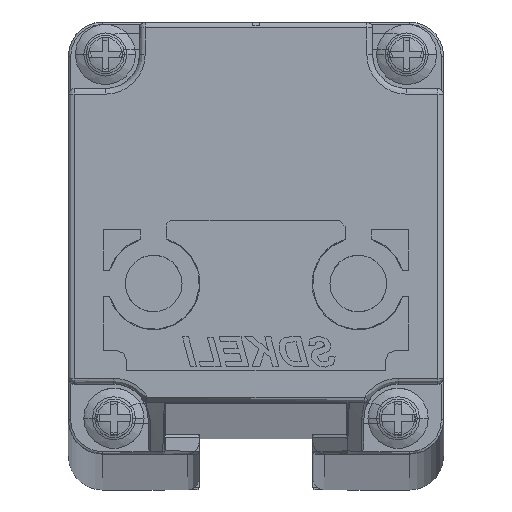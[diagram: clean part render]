
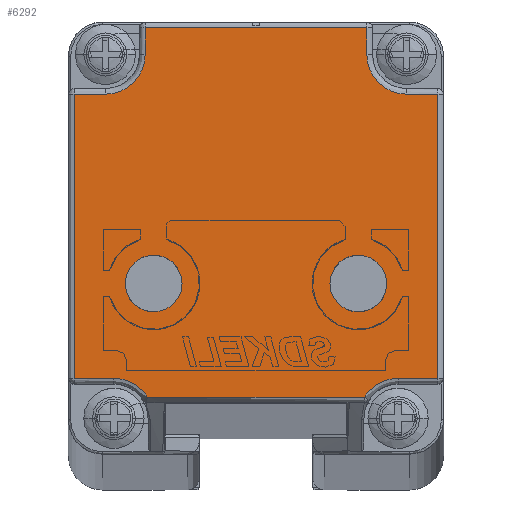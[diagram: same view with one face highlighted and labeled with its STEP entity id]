
A CAD part, top view. The second image highlights one B-rep face of the part: STEP entity #6292.
In plain terms, the highlighted planar face has unit normal (0, 0, 1).
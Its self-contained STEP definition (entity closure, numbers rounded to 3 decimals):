
#2528=CARTESIAN_POINT('',(25.5,15.,130.));
#2529=DIRECTION('',(0.,0.,1.));
#2530=DIRECTION('',(1.,-0.007,0.));
#2531=AXIS2_PLACEMENT_3D('',#2528,#2529,#2530);
#2533=CARTESIAN_POINT('',(25.5,15.,130.));
#2534=DIRECTION('',(0.,0.,1.));
#2535=DIRECTION('',(-1.,0.007,0.));
#2536=AXIS2_PLACEMENT_3D('',#2533,#2534,#2535);
#2538=CARTESIAN_POINT('',(7.5,15.002,130.));
#2539=DIRECTION('',(0.,0.,1.));
#2540=DIRECTION('',(1.,0.007,0.));
#2541=AXIS2_PLACEMENT_3D('',#2538,#2539,#2540);
#2543=CARTESIAN_POINT('',(7.5,15.002,130.));
#2544=DIRECTION('',(0.,0.,1.));
#2545=DIRECTION('',(-1.,-0.007,0.));
#2546=AXIS2_PLACEMENT_3D('',#2543,#2544,#2545);
#2548=CARTESIAN_POINT('',(4.,3.152,130.));
#2549=DIRECTION('',(0.,0.,1.));
#2550=DIRECTION('',(0.849,0.528,0.));
#2551=AXIS2_PLACEMENT_3D('',#2548,#2549,#2550);
#2553=CARTESIAN_POINT('',(3.25,35.15,130.));
#2554=DIRECTION('',(0.,0.,1.));
#2555=DIRECTION('',(0.,-1.,0.));
#2556=AXIS2_PLACEMENT_3D('',#2553,#2554,#2555);
#2558=CARTESIAN_POINT('',(29.75,35.15,130.));
#2559=DIRECTION('',(0.,0.,1.));
#2560=DIRECTION('',(-1.,0.,0.));
#2561=AXIS2_PLACEMENT_3D('',#2558,#2559,#2560);
#2563=CARTESIAN_POINT('',(29.,3.152,130.));
#2564=DIRECTION('',(0.,0.,1.));
#2565=DIRECTION('',(0.,1.,0.));
#2566=AXIS2_PLACEMENT_3D('',#2563,#2564,#2565);
#2633=DIRECTION('',(1.,0.,0.));
#2634=VECTOR('',#2633,19.056);
#2635=CARTESIAN_POINT('',(6.972,5.,130.));
#2636=LINE('',#2635,#2634);
#3036=DIRECTION('',(1.,0.,0.));
#3037=VECTOR('',#3036,3.5);
#3038=CARTESIAN_POINT('',(29.,6.652,130.));
#3039=LINE('',#3038,#3037);
#3100=DIRECTION('',(0.,1.,0.));
#3101=VECTOR('',#3100,24.998);
#3102=CARTESIAN_POINT('',(32.5,6.652,130.));
#3103=LINE('',#3102,#3101);
#3139=DIRECTION('',(-1.,0.,0.));
#3140=VECTOR('',#3139,2.75);
#3141=CARTESIAN_POINT('',(32.5,31.65,130.));
#3142=LINE('',#3141,#3140);
#3166=DIRECTION('',(0.,1.,0.));
#3167=VECTOR('',#3166,2.35);
#3168=CARTESIAN_POINT('',(26.25,35.15,130.));
#3169=LINE('',#3168,#3167);
#3367=DIRECTION('',(-1.,0.,0.));
#3368=VECTOR('',#3367,19.5);
#3369=CARTESIAN_POINT('',(26.25,37.5,130.));
#3370=LINE('',#3369,#3368);
#3406=DIRECTION('',(0.,-1.,0.));
#3407=VECTOR('',#3406,2.35);
#3408=CARTESIAN_POINT('',(6.75,37.5,130.));
#3409=LINE('',#3408,#3407);
#3433=DIRECTION('',(-1.,0.,0.));
#3434=VECTOR('',#3433,2.75);
#3435=CARTESIAN_POINT('',(3.25,31.65,130.));
#3436=LINE('',#3435,#3434);
#3594=DIRECTION('',(0.,-1.,0.));
#3595=VECTOR('',#3594,24.998);
#3596=CARTESIAN_POINT('',(0.5,31.65,130.));
#3597=LINE('',#3596,#3595);
#3633=DIRECTION('',(1.,0.,0.));
#3634=VECTOR('',#3633,3.5);
#3635=CARTESIAN_POINT('',(0.5,6.652,130.));
#3636=LINE('',#3635,#3634);
#5452=CARTESIAN_POINT('',(28.,14.984,130.));
#5453=VERTEX_POINT('',#5452);
#5454=CARTESIAN_POINT('',(23.,15.017,130.));
#5455=VERTEX_POINT('',#5454);
#5456=CARTESIAN_POINT('',(6.972,5.,130.));
#5457=CARTESIAN_POINT('',(4.,6.652,130.));
#5458=VERTEX_POINT('',#5456);
#5459=VERTEX_POINT('',#5457);
#5460=CARTESIAN_POINT('',(0.5,6.652,130.));
#5461=VERTEX_POINT('',#5460);
#5462=CARTESIAN_POINT('',(0.5,31.65,130.));
#5463=VERTEX_POINT('',#5462);
#5464=CARTESIAN_POINT('',(3.25,31.65,130.));
#5465=VERTEX_POINT('',#5464);
#5466=CARTESIAN_POINT('',(6.75,35.15,130.));
#5467=VERTEX_POINT('',#5466);
#5468=CARTESIAN_POINT('',(6.75,37.5,130.));
#5469=VERTEX_POINT('',#5468);
#5470=CARTESIAN_POINT('',(26.25,37.5,130.));
#5471=VERTEX_POINT('',#5470);
#5472=CARTESIAN_POINT('',(26.25,35.15,130.));
#5473=VERTEX_POINT('',#5472);
#5474=CARTESIAN_POINT('',(29.75,31.65,130.));
#5475=VERTEX_POINT('',#5474);
#5476=CARTESIAN_POINT('',(32.5,31.65,130.));
#5477=VERTEX_POINT('',#5476);
#5478=CARTESIAN_POINT('',(32.5,6.652,130.));
#5479=VERTEX_POINT('',#5478);
#5480=CARTESIAN_POINT('',(29.,6.652,130.));
#5481=VERTEX_POINT('',#5480);
#5482=CARTESIAN_POINT('',(26.028,5.,130.));
#5483=VERTEX_POINT('',#5482);
#5484=CARTESIAN_POINT('',(10.,15.018,130.));
#5485=CARTESIAN_POINT('',(5.,14.986,130.));
#5486=VERTEX_POINT('',#5484);
#5487=VERTEX_POINT('',#5485);
#6247=CARTESIAN_POINT('',(16.5,24.,130.));
#6248=DIRECTION('',(0.,0.,1.));
#6249=DIRECTION('',(1.,0.,0.));
#6250=AXIS2_PLACEMENT_3D('',#6247,#6248,#6249);
#6251=PLANE('',#6250);
#6253=ORIENTED_EDGE('',*,*,#6252,.T.);
#6255=ORIENTED_EDGE('',*,*,#6254,.F.);
#6257=ORIENTED_EDGE('',*,*,#6256,.F.);
#6259=ORIENTED_EDGE('',*,*,#6258,.F.);
#6261=ORIENTED_EDGE('',*,*,#6260,.T.);
#6263=ORIENTED_EDGE('',*,*,#6262,.F.);
#6265=ORIENTED_EDGE('',*,*,#6264,.F.);
#6267=ORIENTED_EDGE('',*,*,#6266,.F.);
#6269=ORIENTED_EDGE('',*,*,#6268,.T.);
#6271=ORIENTED_EDGE('',*,*,#6270,.F.);
#6273=ORIENTED_EDGE('',*,*,#6272,.F.);
#6275=ORIENTED_EDGE('',*,*,#6274,.F.);
#6277=ORIENTED_EDGE('',*,*,#6276,.T.);
#6279=ORIENTED_EDGE('',*,*,#6278,.F.);
#6280=EDGE_LOOP('',(#6253,#6255,#6257,#6259,#6261,#6263,#6265,#6267,#6269,#6271,
#6273,#6275,#6277,#6279));
#6281=FACE_OUTER_BOUND('',#6280,.F.);
#6283=ORIENTED_EDGE('',*,*,#6282,.T.);
#6285=ORIENTED_EDGE('',*,*,#6284,.T.);
#6286=EDGE_LOOP('',(#6283,#6285));
#6287=FACE_BOUND('',#6286,.F.);
#6288=ORIENTED_EDGE('',*,*,#6234,.T.);
#6289=ORIENTED_EDGE('',*,*,#6195,.T.);
#6290=EDGE_LOOP('',(#6288,#6289));
#6291=FACE_BOUND('',#6290,.F.);
#2532=CIRCLE('',#2531,2.5);
#2537=CIRCLE('',#2536,2.5);
#2542=CIRCLE('',#2541,2.5);
#2547=CIRCLE('',#2546,2.5);
#2552=CIRCLE('',#2551,3.5);
#2557=CIRCLE('',#2556,3.5);
#2562=CIRCLE('',#2561,3.5);
#2567=CIRCLE('',#2566,3.5);
#6195=EDGE_CURVE('',#5455,#5453,#2537,.T.);
#6234=EDGE_CURVE('',#5453,#5455,#2532,.T.);
#6252=EDGE_CURVE('',#5458,#5459,#2552,.T.);
#6254=EDGE_CURVE('',#5461,#5459,#3636,.T.);
#6256=EDGE_CURVE('',#5463,#5461,#3597,.T.);
#6258=EDGE_CURVE('',#5465,#5463,#3436,.T.);
#6260=EDGE_CURVE('',#5465,#5467,#2557,.T.);
#6262=EDGE_CURVE('',#5469,#5467,#3409,.T.);
#6264=EDGE_CURVE('',#5471,#5469,#3370,.T.);
#6266=EDGE_CURVE('',#5473,#5471,#3169,.T.);
#6268=EDGE_CURVE('',#5473,#5475,#2562,.T.);
#6270=EDGE_CURVE('',#5477,#5475,#3142,.T.);
#6272=EDGE_CURVE('',#5479,#5477,#3103,.T.);
#6274=EDGE_CURVE('',#5481,#5479,#3039,.T.);
#6276=EDGE_CURVE('',#5481,#5483,#2567,.T.);
#6278=EDGE_CURVE('',#5458,#5483,#2636,.T.);
#6282=EDGE_CURVE('',#5486,#5487,#2542,.T.);
#6284=EDGE_CURVE('',#5487,#5486,#2547,.T.);
#6292=ADVANCED_FACE('',(#6281,#6287,#6291),#6251,.T.);
